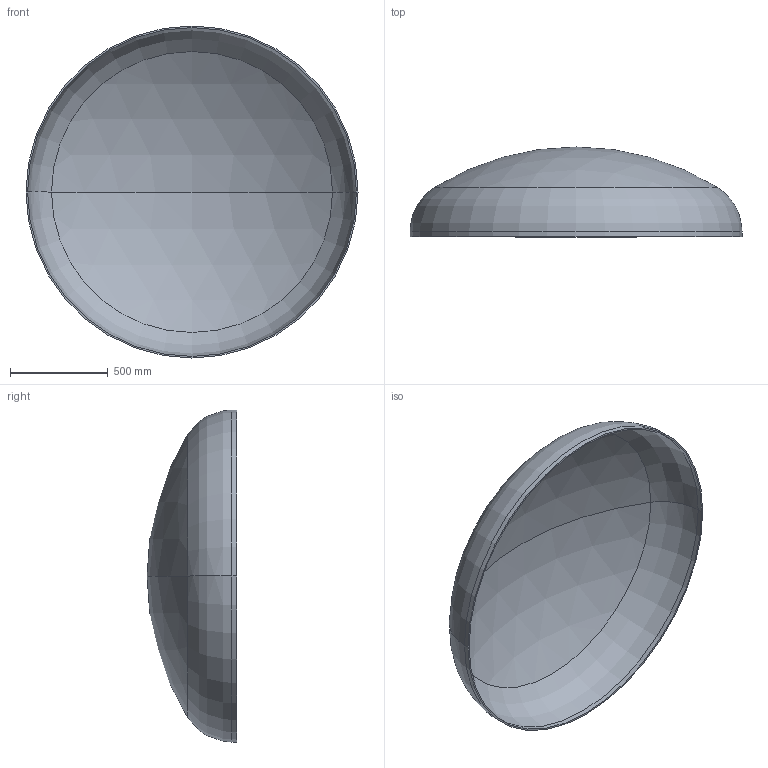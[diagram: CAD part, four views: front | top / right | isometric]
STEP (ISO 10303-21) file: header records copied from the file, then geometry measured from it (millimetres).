
FILE_DESCRIPTION (( 'STEP AP203' ), '1' );
FILE_NAME ('DIN 28013 Korbbogenform_-_Boden DIN 28013 - 1700 x 25 - I - s=8.step', '2016-07-01T11:35:50', ( '' ), ( '' ), 'SwSTEP 2.0', 'SolidWorks 2013', '' );
FILE_SCHEMA (( 'CONFIG_CONTROL_DESIGN' ));
Length unit declared in the file: millimetre
Products named in the file (1): DIN 28013 Korbbogenform_-_Boden DIN 28013 - 1700 x 25 - I - s=8
Bounding box: 1700 x 459.58 x 1700 mm (x, y, z)
Volume: 26023803 mm3; surface area: 6548606.8 mm2
Topology: 1 solids, 1 shells, 13 faces, 24 edges, 14 vertices
Faces by surface type: torus 4, cylinder 4, sphere 4, plane 1
Entity records: 407 total; most frequent: DIRECTION 72, CARTESIAN_POINT 52, ORIENTED_EDGE 48, AXIS2_PLACEMENT_3D 34, EDGE_CURVE 24, CIRCLE 20, VERTEX_POINT 14, EDGE_LOOP 14
